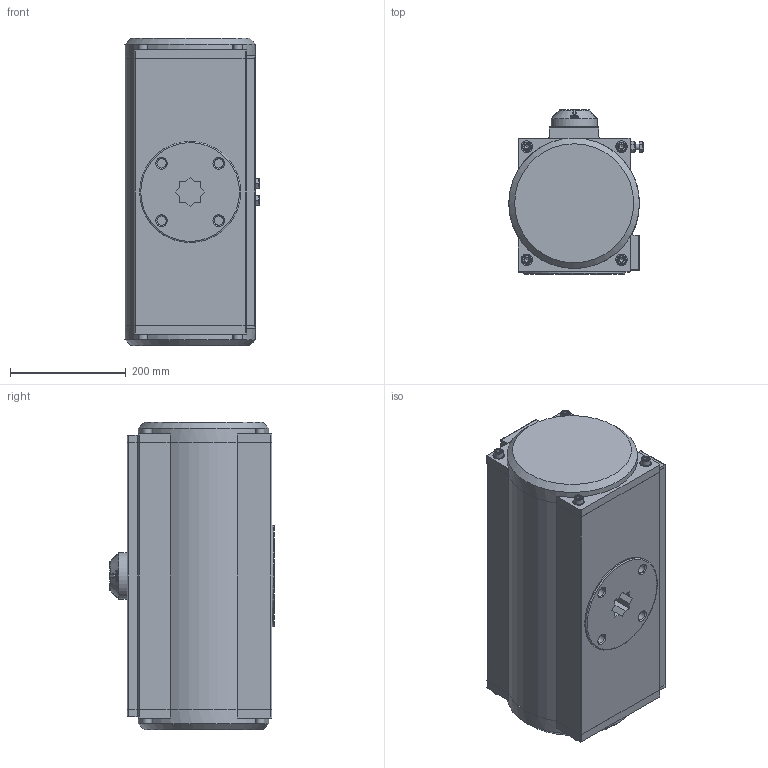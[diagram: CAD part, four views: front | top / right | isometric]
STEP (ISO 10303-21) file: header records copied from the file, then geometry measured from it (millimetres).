
FILE_DESCRIPTION(('STEP AP242'), '1');
FILE_NAME('PA-DA-210 砅槻斁瀔魤鍱 DN.ru', '2026-04-17T23:05:46', ('DN.ru'), (''), 'C3D Converter', 'C3D Toolkit', '');
FILE_SCHEMA(('AP242_MANAGED_MODEL_BASED_3D_ENGINEERING_MIM_LF { 1 0 10303 442 1 1 4 }'));
Length unit declared in the file: millimetre
Products named in the file (1): PA-DA-210
Bounding box: 232.4 x 285 x 532 mm (x, y, z)
Volume: 26265444.7 mm3; surface area: 747107.9 mm2
Topology: 1 solids, 4 shells, 1002 faces, 2620 edges, 1707 vertices
Faces by surface type: plane 448, extrusion 347, cylinder 108, cone 87, torus 12
Full cylindrical faces by diameter (mm): 4.724 x2, 5 x8, 8 x9, 10 x20, 16 x12, 20 x8, 80 x1, 140 x2, 175 x1, 226 x2
Entity records: 59402 total; most frequent: CARTESIAN_POINT 29070, ORIENTED_EDGE 4952, DIRECTION 3378, EDGE_CURVE 2476, VERTEX_POINT 1691, B_SPLINE_CURVE_WITH_KNOTS 1421, VECTOR 1416, EDGE_LOOP 1231
